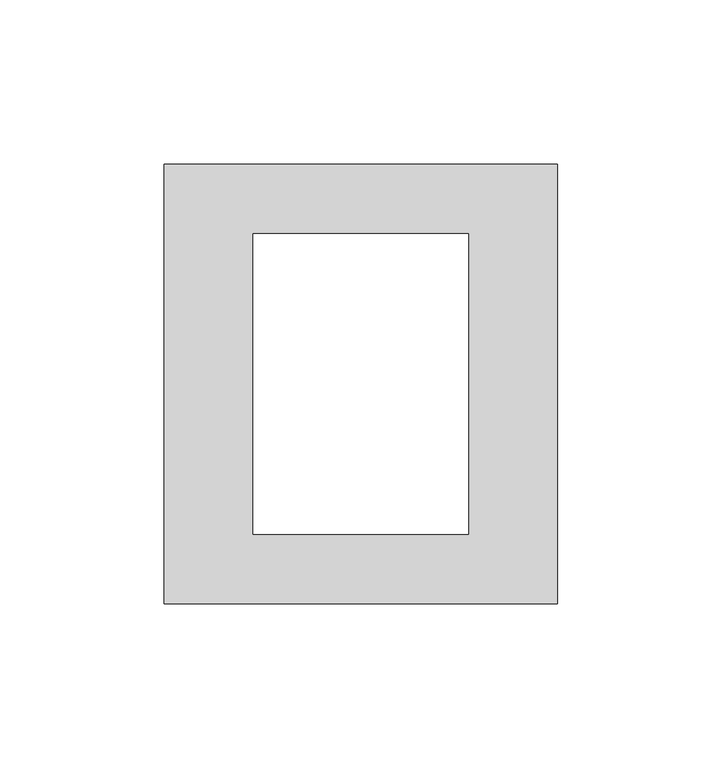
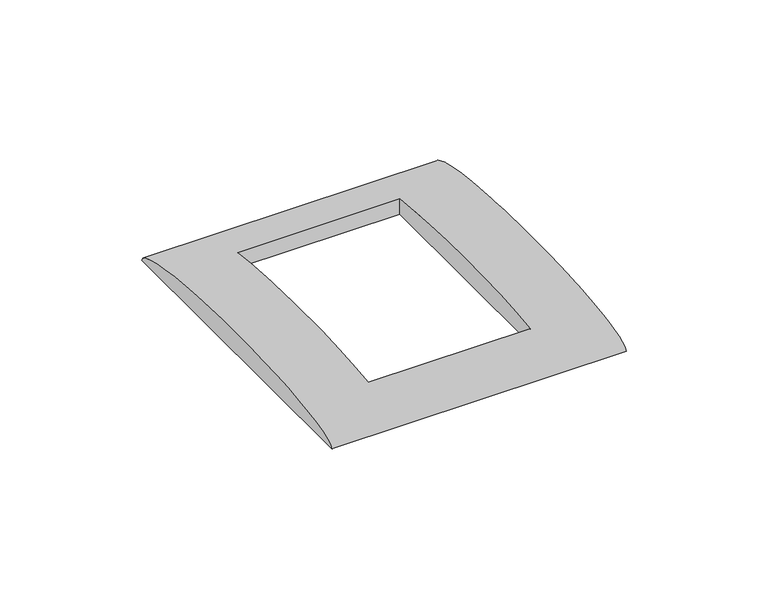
"""IFC4 building model written with IfcOpenShell, lengths in millimetres: proxy geometry, 00-Placca : Placca 6 moduli quadrata."""

from ifc_helpers import new_model, si_unit, point, frame, origin, place, context, project, spatial, ellipse_curve, trimmed, source, transform, mapped, element, save
from ifc_brep_helpers import plane_surface, extruded_surface, advanced_brep


def electrical_fixtures_28084733(model_context):
    return source(origin(), model_context, "Body", "AdvancedBrep", [
        advanced_brep(
        [(60.0, -67.0, 2.0), (60.0, 67.0, 2.0), (-60.0, -67.0, 2.0), (-60.0, 67.0, 2.0), (33.0, -46.0, 2.0), (33.0, 46.0, 2.0), (-33.0, 46.0, 2.0), (-33.0, -46.0, 2.0), (33.0, -46.0, 8.5435975), (33.0, 46.0, 8.5435975), (-33.0, 46.0, 8.5435975), (-33.0, -46.0, 8.5435975)],
        [
            (0, 1),
            (1, 0, ellipse_curve(frame((60.0, 0.0, 2.0), z_axis=(1.0, 0.0, 0.0), x_axis=(0.0, 1.0, 0.0)), 67.0, 9.0)),
            (2, 3, ellipse_curve(frame((-60.0, 0.0, 2.0), z_axis=(-1.0, 0.0, 0.0), x_axis=(0.0, 1.0, 0.0)), 67.0, 9.0)),
            (3, 2),
            (0, 2),
            (3, 1),
            (4, 5),
            (5, 6),
            (6, 7),
            (7, 4),
            (4, 8),
            (8, 9, ellipse_curve(frame((33.0, 0.0, 2.0), z_axis=(-1.0, 0.0, 0.0), x_axis=(0.0, 1.0, 0.0)), 67.0, 9.0)),
            (9, 5),
            (9, 10),
            (10, 6),
            (10, 11, ellipse_curve(frame((-33.0, 0.0, 2.0), z_axis=(1.0, 0.0, 0.0), x_axis=(0.0, 1.0, 0.0)), 67.0, 9.0)),
            (11, 7),
            (11, 8),
        ],
        [
            plane_surface(frame((60.0, 67.0, 2.0), z_axis=(1.0, 0.0, 0.0), x_axis=(0.0, 1.0, 0.0))),
            plane_surface(frame((-60.0, 67.0, 2.0), z_axis=(-1.0, 0.0, 0.0), x_axis=(0.0, -1.0, 0.0))),
            plane_surface(frame((60.0, -67.0, 2.0), z_axis=(0.0, 0.0, -1.0), x_axis=(-1.0, 0.0, 0.0))),
            plane_surface(frame((33.0, -46.0, 13.0), z_axis=(-1.0, 0.0, 0.0), x_axis=(0.0, 0.0, -1.0))),
            plane_surface(frame((33.0, 46.0, 13.0), z_axis=(0.0, -1.0, 0.0), x_axis=(0.0, 0.0, -1.0))),
            plane_surface(frame((-33.0, 46.0, 13.0), z_axis=(1.0, 0.0, 0.0), x_axis=(0.0, 0.0, -1.0))),
            plane_surface(frame((-33.0, -46.0, 13.0), z_axis=(0.0, 1.0, 0.0), x_axis=(0.0, 0.0, -1.0))),
            extruded_surface(trimmed(ellipse_curve(frame((-180.0, 0.0, 2.0), z_axis=(1.0, 0.0, 0.0), x_axis=(0.0, 1.0, 0.0)), 67.0, 9.0), [point((-180.0, 67.0, 2.0))], [point((-180.0, -67.0, 2.0))], True, "CARTESIAN"), (120.0, 0.0, 0.0), 120.0),
        ],
        [
            (0, [[1, 2]]),
            (1, [[3, 4]]),
            (2, [[-1, 5, -4, 6], [7, 8, 9, 10]]),
            (3, [[11, 12, 13, -7]]),
            (4, [[-13, 14, 15, -8]]),
            (5, [[-15, 16, 17, -9]]),
            (6, [[-11, -10, -17, 18]]),
            (7, [[-2, -6, -3, -5], [-12, -18, -16, -14]]),
        ],
    ),
    ])


if __name__ == "__main__":
    model = new_model("IFC4")
    model_context = context("Model", 3, world=origin())
    ifc_project = project(units=[si_unit("LENGTHUNIT", "METRE", prefix="MILLI")], contexts=[model_context])
    site = spatial("IfcSite", under=ifc_project)
    building = spatial("IfcBuilding", under=site)
    placement = place(None, origin())
    electrical_fixtures_shape = electrical_fixtures_28084733(model_context)
    element("IfcBuildingElementProxy", 1, Name="00-Placca : Placca 6 moduli quadrata", ObjectType="00-Placca : Placca 6 moduli quadrata", at=placement, inside=building, context=model_context, shape_type="MappedRepresentation", body=[
        mapped(electrical_fixtures_shape, transform((0.0, 0.0, 0.0), x_axis=(1.0, 0.0, 0.0), y_axis=(0.0, 1.0, 0.0), z_axis=(0.0, 0.0, 1.0))),
    ])
    save(model, "model.ifc")
